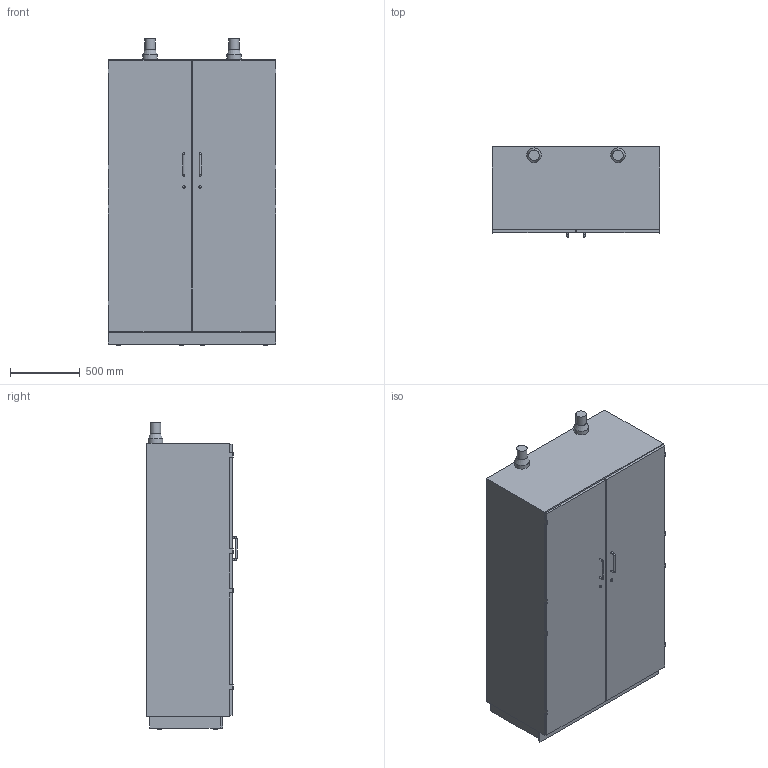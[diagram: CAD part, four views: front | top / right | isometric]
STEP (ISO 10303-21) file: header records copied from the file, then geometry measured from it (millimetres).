
FILE_DESCRIPTION(/* description */ ('Unknown'),/* implementation_level */ '2;1');
FILE_NAME(/* name */ 'ACID C pro XL_D00108908',/* time_stamp */ '2021-01-04T09:37:17+01:00',/* author */ ('Unknown'),/* organization */ ('Unknown'),/* preprocessor_version */ 'ST-DEVELOPER v16.7',/* originating_system */ 'Solid Edge',/* authorisation */ 'Unknown');
FILE_SCHEMA (('AUTOMOTIVE_DESIGN {1 0 10303 214 3 1 1}'));
Length unit declared in the file: millimetre
Products named in the file (1): ACID C pro XL_D00108908
Bounding box: 1200 x 644 x 2190 mm (x, y, z)
Volume: 1432095738 mm3; surface area: 9139736.5 mm2
Topology: 1 solids, 1 shells, 113 faces, 286 edges, 188 vertices
Faces by surface type: plane 79, cylinder 28, torus 4, cone 2
Full cylindrical faces by diameter (mm): 12 x6, 18 x2, 30 x8, 75 x2, 105 x2
Entity records: 4030 total; most frequent: CARTESIAN_POINT 554, DIRECTION 540, ORIENTED_EDGE 512, EDGE_CURVE 256, LINE 200, VECTOR 200, VERTEX_POINT 184, AXIS2_PLACEMENT_3D 170
